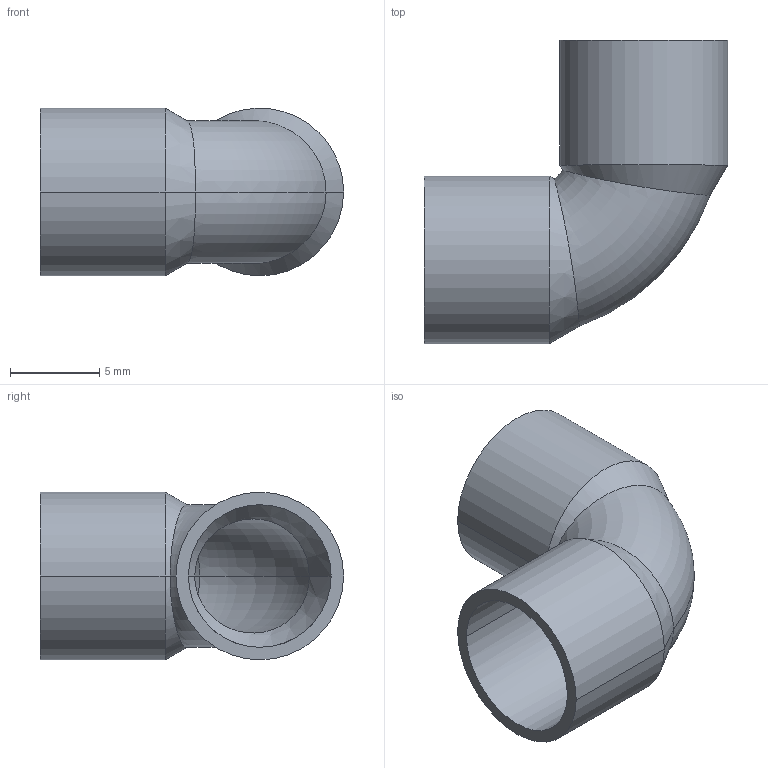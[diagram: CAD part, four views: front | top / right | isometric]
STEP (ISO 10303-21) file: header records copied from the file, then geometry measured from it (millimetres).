
FILE_DESCRIPTION((''),'2;1');
FILE_NAME('G:\SANHA-TERNAT\Technik\Deckel\UUU\Producttek\150908\150908(0).stp','2007-07-25T08:36:19',('vdvijverd'),(''),'Autodesk Inventor 8','Autodesk Inventor 8','');
FILE_SCHEMA(('AUTOMOTIVE_DESIGN { 1 0 10303 214 1 1 1 1 }'));
Length unit declared in the file: millimetre
Products named in the file (1): 150908(0)
Bounding box: 17 x 17 x 9.4 mm (x, y, z)
Volume: 413.1 mm3; surface area: 1183 mm2
Topology: 1 solids, 1 shells, 22 faces, 52 edges, 32 vertices
Faces by surface type: bspline 9, torus 4, cylinder 4, cone 4, plane 1
Entity records: 919 total; most frequent: CARTESIAN_POINT 422, ORIENTED_EDGE 104, DIRECTION 92, EDGE_CURVE 52, AXIS2_PLACEMENT_3D 38, VERTEX_POINT 32, CIRCLE 24, EDGE_LOOP 24
